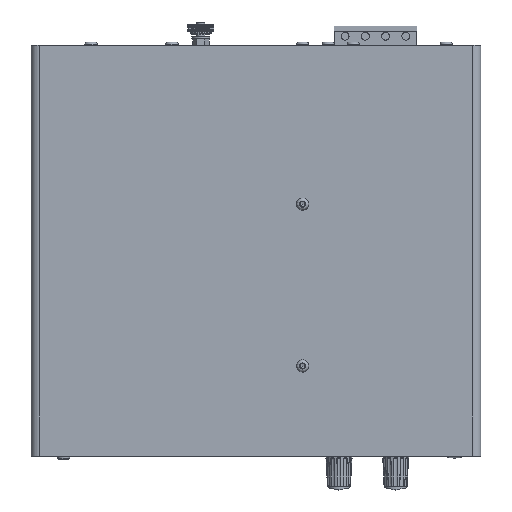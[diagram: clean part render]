
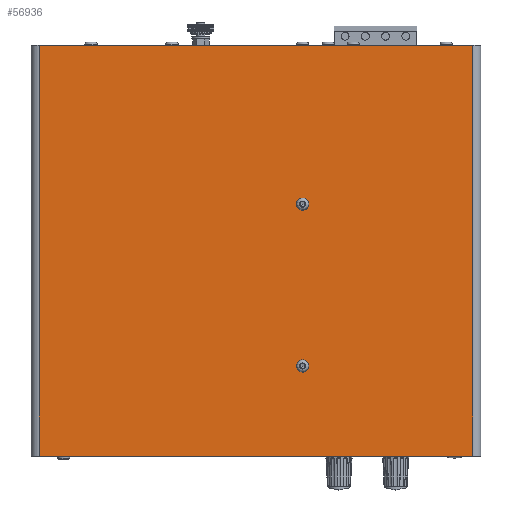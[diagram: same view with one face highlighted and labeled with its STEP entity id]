
A CAD part, top view. The second image highlights one B-rep face of the part: STEP entity #56936.
In plain terms, the highlighted planar face has unit normal (0, 0, 1).
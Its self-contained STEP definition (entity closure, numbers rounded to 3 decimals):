
#3546=LINE('',#89109,#7831);
#3549=LINE('',#89120,#7834);
#3552=LINE('',#89129,#7837);
#3554=LINE('',#89133,#7839);
#7831=VECTOR('',#69619,10.);
#7834=VECTOR('',#69632,10.);
#7837=VECTOR('',#69643,10.);
#7839=VECTOR('',#69649,10.);
#11547=FACE_BOUND('',#16540,.T.);
#11548=FACE_BOUND('',#16541,.T.);
#13092=FACE_OUTER_BOUND('',#16539,.T.);
#16539=EDGE_LOOP('',(#40321,#40322,#40323,#40324));
#16540=EDGE_LOOP('',(#40325));
#16541=EDGE_LOOP('',(#40326));
#20258=CIRCLE('',#61106,3.);
#20262=CIRCLE('',#61112,3.);
#23520=VERTEX_POINT('',#89033);
#23524=VERTEX_POINT('',#89044);
#23550=VERTEX_POINT('',#89106);
#23551=VERTEX_POINT('',#89108);
#23554=VERTEX_POINT('',#89119);
#23556=VERTEX_POINT('',#89127);
#29646=EDGE_CURVE('',#23520,#23520,#20258,.T.);
#29651=EDGE_CURVE('',#23524,#23524,#20262,.T.);
#29682=EDGE_CURVE('',#23550,#23551,#3546,.T.);
#29688=EDGE_CURVE('',#23554,#23551,#3549,.T.);
#29693=EDGE_CURVE('',#23550,#23556,#3552,.T.);
#29695=EDGE_CURVE('',#23554,#23556,#3554,.T.);
#40321=ORIENTED_EDGE('',*,*,#29693,.T.);
#40322=ORIENTED_EDGE('',*,*,#29695,.F.);
#40323=ORIENTED_EDGE('',*,*,#29688,.T.);
#40324=ORIENTED_EDGE('',*,*,#29682,.F.);
#40325=ORIENTED_EDGE('',*,*,#29646,.T.);
#40326=ORIENTED_EDGE('',*,*,#29651,.T.);
#51530=PLANE('',#61138);
#56936=ADVANCED_FACE('',(#13092,#11547,#11548),#51530,.T.);
#61106=AXIS2_PLACEMENT_3D('',#89034,#69553,#69554);
#61112=AXIS2_PLACEMENT_3D('',#89045,#69566,#69567);
#61138=AXIS2_PLACEMENT_3D('',#89132,#69647,#69648);
#69553=DIRECTION('center_axis',(0.,0.,-1.));
#69554=DIRECTION('ref_axis',(0.749,-0.663,0.));
#69566=DIRECTION('center_axis',(0.,0.,-1.));
#69567=DIRECTION('ref_axis',(-0.995,-0.095,0.));
#69619=DIRECTION('',(-1.,0.,0.));
#69632=DIRECTION('',(0.,-1.,0.));
#69643=DIRECTION('',(0.,1.,0.));
#69647=DIRECTION('center_axis',(0.,0.,1.));
#69648=DIRECTION('ref_axis',(1.,0.,0.));
#69649=DIRECTION('',(1.,0.,0.));
#89033=CARTESIAN_POINT('',(20.754,24.989,52.));
#89034=CARTESIAN_POINT('Origin',(23.,23.,52.));
#89044=CARTESIAN_POINT('',(25.986,-56.715,52.));
#89045=CARTESIAN_POINT('Origin',(23.,-57.,52.));
#89106=CARTESIAN_POINT('',(107.,-101.5,52.));
#89108=CARTESIAN_POINT('',(-107.,-101.5,52.));
#89109=CARTESIAN_POINT('',(111.,-101.5,52.));
#89119=CARTESIAN_POINT('',(-107.,101.5,52.));
#89120=CARTESIAN_POINT('',(-107.,50.75,52.));
#89127=CARTESIAN_POINT('',(107.,101.5,52.));
#89129=CARTESIAN_POINT('',(107.,-50.75,52.));
#89132=CARTESIAN_POINT('Origin',(0.,0.,
52.));
#89133=CARTESIAN_POINT('',(-111.,101.5,52.));
